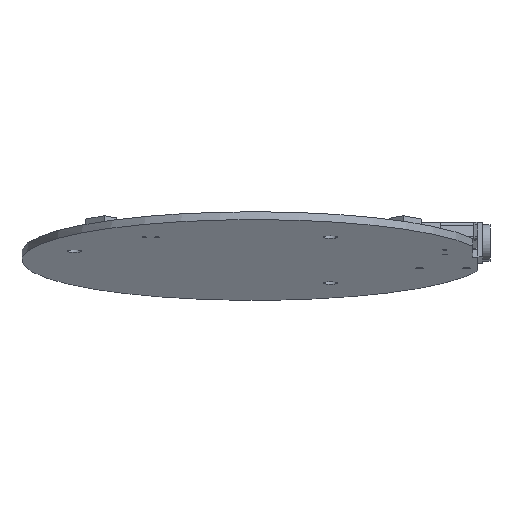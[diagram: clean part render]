
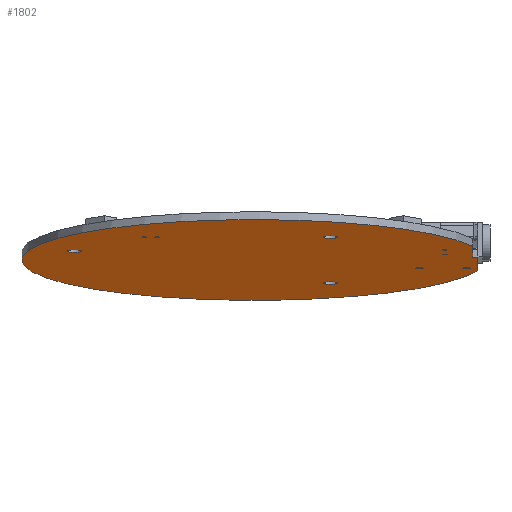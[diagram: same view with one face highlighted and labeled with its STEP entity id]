
A CAD part, front view. The second image highlights one B-rep face of the part: STEP entity #1802.
In plain terms, the highlighted planar face has unit normal (0, -0.174, -0.985).
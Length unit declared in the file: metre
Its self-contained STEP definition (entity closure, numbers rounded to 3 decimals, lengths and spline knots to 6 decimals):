
#107=LINE('',#2888,#290);
#108=LINE('',#2890,#291);
#109=LINE('',#2892,#292);
#290=VECTOR('',#2246,1.);
#291=VECTOR('',#2247,1.);
#292=VECTOR('',#2248,1.);
#594=ORIENTED_EDGE('',*,*,#1008,.F.);
#595=ORIENTED_EDGE('',*,*,#1010,.F.);
#596=ORIENTED_EDGE('',*,*,#1012,.F.);
#597=ORIENTED_EDGE('',*,*,#1014,.F.);
#598=ORIENTED_EDGE('',*,*,#1016,.F.);
#599=ORIENTED_EDGE('',*,*,#1018,.F.);
#600=ORIENTED_EDGE('',*,*,#1020,.F.);
#601=ORIENTED_EDGE('',*,*,#1022,.F.);
#602=ORIENTED_EDGE('',*,*,#1024,.F.);
#603=ORIENTED_EDGE('',*,*,#1025,.F.);
#604=ORIENTED_EDGE('',*,*,#1026,.T.);
#605=ORIENTED_EDGE('',*,*,#1027,.T.);
#606=ORIENTED_EDGE('',*,*,#1028,.T.);
#1008=EDGE_CURVE('',#1230,#1230,#1347,.T.);
#1010=EDGE_CURVE('',#1232,#1232,#1349,.T.);
#1012=EDGE_CURVE('',#1234,#1234,#1351,.T.);
#1014=EDGE_CURVE('',#1236,#1236,#1353,.T.);
#1016=EDGE_CURVE('',#1238,#1238,#1355,.T.);
#1018=EDGE_CURVE('',#1240,#1240,#1357,.T.);
#1020=EDGE_CURVE('',#1242,#1242,#1359,.T.);
#1022=EDGE_CURVE('',#1244,#1244,#1361,.T.);
#1024=EDGE_CURVE('',#1246,#1246,#1363,.T.);
#1025=EDGE_CURVE('',#1247,#1248,#1364,.T.);
#1026=EDGE_CURVE('',#1247,#1249,#107,.T.);
#1027=EDGE_CURVE('',#1249,#1250,#108,.T.);
#1028=EDGE_CURVE('',#1250,#1248,#109,.T.);
#1230=VERTEX_POINT('',#2840);
#1232=VERTEX_POINT('',#2846);
#1234=VERTEX_POINT('',#2851);
#1236=VERTEX_POINT('',#2857);
#1238=VERTEX_POINT('',#2863);
#1240=VERTEX_POINT('',#2868);
#1242=VERTEX_POINT('',#2873);
#1244=VERTEX_POINT('',#2878);
#1246=VERTEX_POINT('',#2883);
#1247=VERTEX_POINT('',#2886);
#1248=VERTEX_POINT('',#2887);
#1249=VERTEX_POINT('',#2889);
#1250=VERTEX_POINT('',#2891);
#1347=CIRCLE('',#1917,0.000318);
#1349=CIRCLE('',#1921,0.000318);
#1351=CIRCLE('',#1924,0.000324);
#1353=CIRCLE('',#1928,0.0006);
#1355=CIRCLE('',#1932,0.0006);
#1357=CIRCLE('',#1935,0.000324);
#1359=CIRCLE('',#1938,0.0011);
#1361=CIRCLE('',#1941,0.0011);
#1363=CIRCLE('',#1944,0.0011);
#1364=CIRCLE('',#1946,0.035012);
#1447=EDGE_LOOP('',(#594));
#1448=EDGE_LOOP('',(#595));
#1449=EDGE_LOOP('',(#596));
#1450=EDGE_LOOP('',(#597));
#1451=EDGE_LOOP('',(#598));
#1452=EDGE_LOOP('',(#599));
#1453=EDGE_LOOP('',(#600));
#1454=EDGE_LOOP('',(#601));
#1455=EDGE_LOOP('',(#602));
#1456=EDGE_LOOP('',(#603,#604,#605,#606));
#1593=FACE_BOUND('',#1447,.T.);
#1594=FACE_BOUND('',#1448,.T.);
#1595=FACE_BOUND('',#1449,.T.);
#1596=FACE_BOUND('',#1450,.T.);
#1597=FACE_BOUND('',#1451,.T.);
#1598=FACE_BOUND('',#1452,.T.);
#1599=FACE_BOUND('',#1453,.T.);
#1600=FACE_BOUND('',#1454,.T.);
#1601=FACE_BOUND('',#1455,.T.);
#1602=FACE_BOUND('',#1456,.T.);
#1705=PLANE('',#1945);
#1802=ADVANCED_FACE('',(#1593,#1594,#1595,#1596,#1597,#1598,#1599,#1600,
#1601,#1602),#1705,.T.);
#1917=AXIS2_PLACEMENT_3D('',#2839,#2186,#2187);
#1921=AXIS2_PLACEMENT_3D('',#2845,#2194,#2195);
#1924=AXIS2_PLACEMENT_3D('',#2850,#2200,#2201);
#1928=AXIS2_PLACEMENT_3D('',#2856,#2208,#2209);
#1932=AXIS2_PLACEMENT_3D('',#2862,#2216,#2217);
#1935=AXIS2_PLACEMENT_3D('',#2867,#2222,#2223);
#1938=AXIS2_PLACEMENT_3D('',#2872,#2228,#2229);
#1941=AXIS2_PLACEMENT_3D('',#2877,#2234,#2235);
#1944=AXIS2_PLACEMENT_3D('',#2882,#2240,#2241);
#1945=AXIS2_PLACEMENT_3D('',#2884,#2242,#2243);
#1946=AXIS2_PLACEMENT_3D('',#2885,#2244,#2245);
#2186=DIRECTION('',(0.,-0.174,-0.985));
#2187=DIRECTION('',(0.,-0.985,0.174));
#2194=DIRECTION('',(0.,-0.174,-0.985));
#2195=DIRECTION('',(0.,-0.985,0.174));
#2200=DIRECTION('',(0.,-0.174,-0.985));
#2201=DIRECTION('',(0.,-0.985,0.174));
#2208=DIRECTION('',(0.,-0.174,-0.985));
#2209=DIRECTION('',(0.,-0.985,0.174));
#2216=DIRECTION('',(0.,-0.174,-0.985));
#2217=DIRECTION('',(0.,-0.985,0.174));
#2222=DIRECTION('',(0.,-0.174,-0.985));
#2223=DIRECTION('',(0.,-0.985,0.174));
#2228=DIRECTION('',(0.,-0.174,-0.985));
#2229=DIRECTION('',(0.,-0.985,0.174));
#2234=DIRECTION('',(0.,-0.174,-0.985));
#2235=DIRECTION('',(0.,-0.985,0.174));
#2240=DIRECTION('',(0.,-0.174,-0.985));
#2241=DIRECTION('',(0.,-0.985,0.174));
#2242=DIRECTION('',(0.,-0.174,-0.985));
#2243=DIRECTION('',(0.,-0.985,0.174));
#2244=DIRECTION('',(0.,0.174,0.985));
#2245=DIRECTION('',(0.963,0.265,-0.047));
#2246=DIRECTION('',(0.,-0.985,0.174));
#2247=DIRECTION('',(-1.,0.,0.));
#2248=DIRECTION('',(0.,-0.985,0.174));
#2839=CARTESIAN_POINT('',(-0.03544,0.083853,1.472733));
#2840=CARTESIAN_POINT('',(-0.03544,0.08354,1.472789));
#2845=CARTESIAN_POINT('',(-0.03544,0.079914,1.473428));
#2846=CARTESIAN_POINT('',(-0.03544,0.079601,1.473483));
#2850=CARTESIAN_POINT('',(-0.078839,0.068968,1.475358));
#2851=CARTESIAN_POINT('',(-0.078839,0.068649,1.475414));
#2856=CARTESIAN_POINT('',(-0.032247,0.095583,1.470665));
#2857=CARTESIAN_POINT('',(-0.032247,0.094992,1.470769));
#2862=CARTESIAN_POINT('',(-0.039247,0.095583,1.470665));
#2863=CARTESIAN_POINT('',(-0.039247,0.094992,1.470769));
#2867=CARTESIAN_POINT('',(-0.080744,0.068968,1.475358));
#2868=CARTESIAN_POINT('',(-0.080744,0.068649,1.475414));
#2872=CARTESIAN_POINT('',(-0.052698,0.06901,1.475351));
#2873=CARTESIAN_POINT('',(-0.052698,0.067926,1.475542));
#2877=CARTESIAN_POINT('',(-0.091262,0.08099,1.473238));
#2878=CARTESIAN_POINT('',(-0.091262,0.079907,1.473429));
#2882=CARTESIAN_POINT('',(-0.052698,0.108241,1.468433));
#2883=CARTESIAN_POINT('',(-0.052698,0.107158,1.468624));
#2884=CARTESIAN_POINT('',(-0.099184,0.089842,1.471677));
#2885=CARTESIAN_POINT('',(-0.064195,0.088569,1.471902));
#2886=CARTESIAN_POINT('',(-0.030475,0.097853,1.470265));
#2887=CARTESIAN_POINT('',(-0.031263,0.076861,1.473966));
#2888=CARTESIAN_POINT('',(-0.030475,0.097853,1.470265));
#2889=CARTESIAN_POINT('',(-0.030475,0.086128,1.472332));
#2890=CARTESIAN_POINT('',(-0.030475,0.086128,1.472332));
#2891=CARTESIAN_POINT('',(-0.031263,0.086128,1.472332));
#2892=CARTESIAN_POINT('',(-0.031263,0.086128,1.472332));
